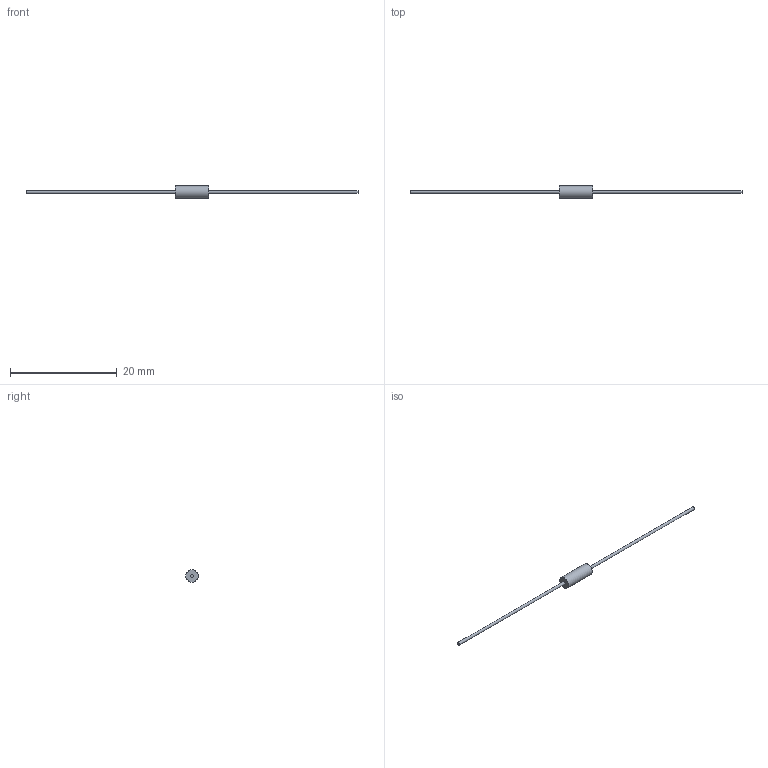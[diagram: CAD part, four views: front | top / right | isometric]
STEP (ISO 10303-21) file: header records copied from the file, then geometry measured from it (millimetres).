
FILE_DESCRIPTION(/* description */ (''),/* implementation_level */ '2;1');
FILE_NAME(/* name */ 'C:\Users\mulla\Documents\SEI Models\Inventor Files\MG_MGM\MGM12_stp.stp',/* time_stamp */ '2019-06-12T13:23:07-04:00',/* author */ ('mulla'),/* organization */ (''),/* preprocessor_version */ 'ST-DEVELOPER v16.1',/* originating_system */ 'Autodesk Inventor 2016',/* authorisation */ '');
FILE_SCHEMA (('AUTOMOTIVE_DESIGN { 1 0 10303 214 3 1 1 }'));
Length unit declared in the file: millimetre
Products named in the file (1): MGM12
Bounding box: 62.3 x 2.3 x 2.3 mm (x, y, z)
Volume: 39.5 mm3; surface area: 151.5 mm2
Topology: 3 solids, 3 shells, 9 faces, 9 edges, 6 vertices
Faces by surface type: plane 6, cylinder 3
Full cylindrical faces by diameter (mm): 0.55 x2, 2.3 x1
Entity records: 186 total; most frequent: DIRECTION 32, CARTESIAN_POINT 22, AXIS2_PLACEMENT_3D 16, EDGE_LOOP 12, ORIENTED_EDGE 12, FACE_OUTER_BOUND 9, ADVANCED_FACE 9, PLANE 6
